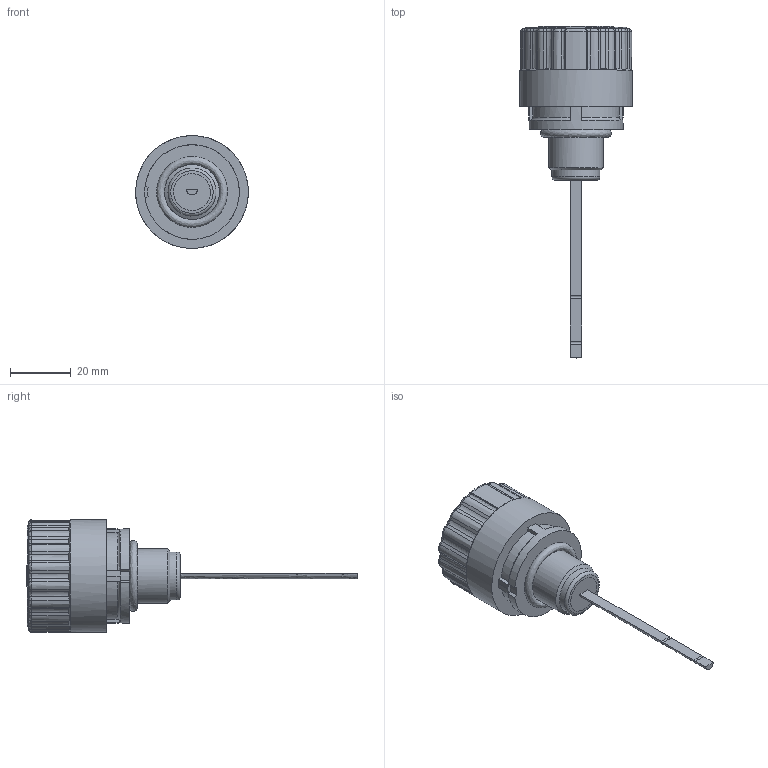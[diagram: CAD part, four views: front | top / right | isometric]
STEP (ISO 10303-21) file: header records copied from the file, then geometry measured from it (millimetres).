
FILE_DESCRIPTION((''),'2;1');
FILE_NAME('U:\Users\r.stiegele\L1_0406-73(12153100).stp', '2014-03-11T07:22:47',('User'),('SDRC'),'I-DEAS Master Series 9','UNIX', 'Yes');
FILE_SCHEMA(('AUTOMOTIVE_DESIGN { 1 0 10303 214 1 1 1 1 }'));
Length unit declared in the file: millimetre
Products named in the file (1): 12153100(269579)
Bounding box: 37 x 108.9 x 36.99 mm (x, y, z)
Volume: 37306.6 mm3; surface area: 7804.7 mm2
Topology: 1 solids, 1 shells, 442 faces, 1184 edges, 759 vertices
Faces by surface type: bspline 442
Entity records: 13684 total; most frequent: CARTESIAN_POINT 6714, ORIENTED_EDGE 2360, EDGE_CURVE 1180, VERTEX_POINT 759, B_SPLINE_CURVE_WITH_KNOTS 577, EDGE_LOOP 461, FACE_OUTER_BOUND 442, ADVANCED_FACE 442
